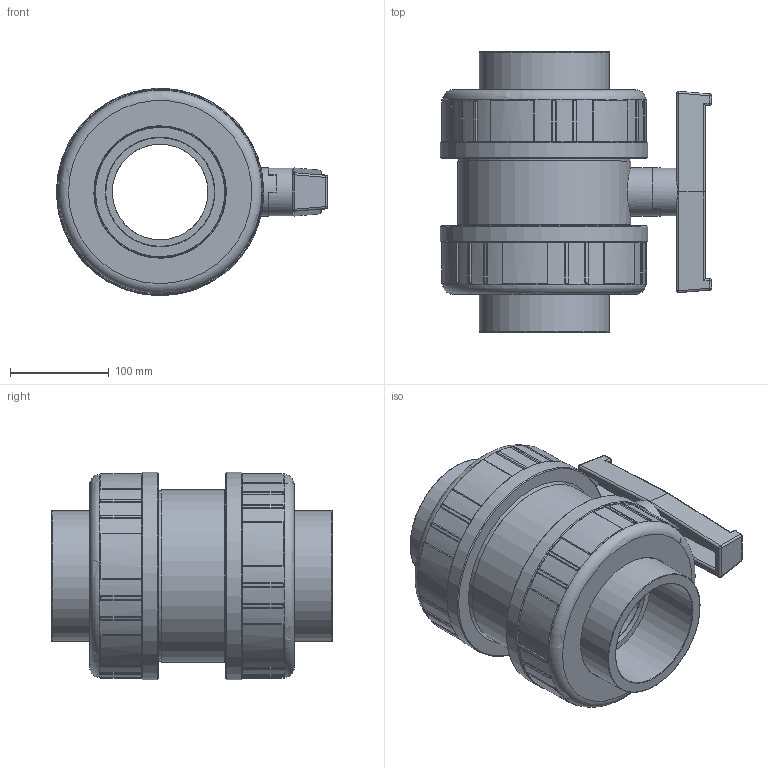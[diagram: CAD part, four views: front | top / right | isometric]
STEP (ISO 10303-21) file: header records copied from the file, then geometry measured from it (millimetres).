
FILE_DESCRIPTION(/* description */ (''),/* implementation_level */ '2;1');
FILE_NAME(/* name */ 'C:\Users\POLYPIPE\Desktop\DATASET INVENTOR\LIBRERIA EFFAST\3D_VALVOLE\3D_VALVOLE A SFERA\3D_BV\3D_BDRBVD\3D_BDRBVD1100.stp',/* time_stamp */ '2018-01-23T16:01:57+01:00',/* author */ ('POLYPIPE'),/* organization */ (''),/* preprocessor_version */ 'ST-DEVELOPER v16.1',/* originating_system */ 'Autodesk Inventor 2016',/* authorisation */ '');
FILE_SCHEMA (('CONFIG_CONTROL_DESIGN'));
Products named in the file (1): 3D_BDRBVD1100
Bounding box: 274.48 x 284 x 209.96 mm (x, y, z)
Volume: 4914740.8 mm3; surface area: 577077.4 mm2
Topology: 3 solids, 4 shells, 518 faces, 1302 edges, 811 vertices
Faces by surface type: cylinder 196, bspline 148, plane 136, torus 22, sphere 12, cone 4
Full cylindrical faces by diameter (mm): 32 x1, 48.3 x1, 48.8 x1, 96.8 x2, 97 x1, 110 x2, 131.8 x2, 133 x2, 134.1 x2, 164.3 x2, 173 x2, 175 x1, 179.8 x2, 210 x2
Entity records: 59402 total; most frequent: CARTESIAN_POINT 47303, ORIENTED_EDGE 2522, DIRECTION 2164, EDGE_CURVE 1261, AXIS2_PLACEMENT_3D 838, VERTEX_POINT 805, EDGE_LOOP 578, STYLED_ITEM 521
